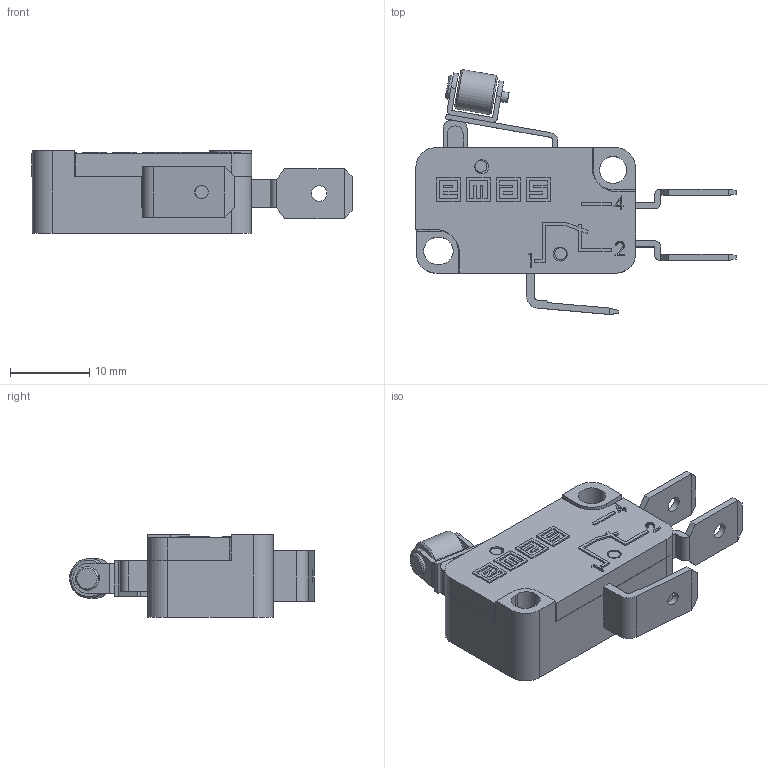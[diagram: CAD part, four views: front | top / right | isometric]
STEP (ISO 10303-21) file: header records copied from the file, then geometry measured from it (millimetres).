
FILE_DESCRIPTION((''),'2; 1');
FILE_NAME('','2026-03-27T16:20:32',(''),(''),'CST STEP Exporter V1.0','Unknown','');
FILE_SCHEMA(('CONFIG_CONTROL_DESIGN'));
Length unit declared in the file: metre
Assembly tree (12 placements, depth 2):
  (unnamed)
    (unnamed)
    (unnamed)
    (unnamed)
    (unnamed)
    (unnamed)
    (unnamed)
    (unnamed)
    (unnamed)
    (unnamed)
    (unnamed)
    (unnamed)
    (unnamed)
Bounding box: 40.35 x 30.84 x 10.4 mm (x, y, z)
Surface area: 7467.4 mm2 (no closed solid volume)
Topology: 0 solids, 12 shells, 312 faces, 1113 edges, 828 vertices
Faces by surface type: plane 255, cylinder 48, extrusion 6, cone 3
Full cylindrical faces by diameter (mm): 1.3 x1, 1.5 x4, 1.7 x1, 1.75 x2, 1.95 x2, 3 x1, 3.4 x1, 5 x1
Entity records: 14614 total; most frequent: CARTESIAN_POINT 2419, DIRECTION 1887, ORIENTED_EDGE 1833, EDGE_CURVE 1094, VECTOR 889, LINE 883, VERTEX_POINT 825, AXIS2_PLACEMENT_3D 499
